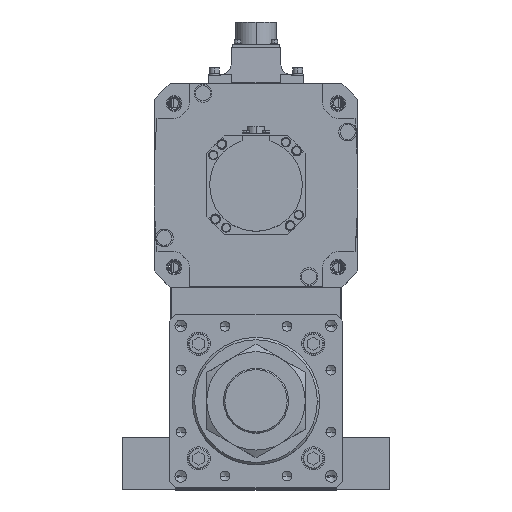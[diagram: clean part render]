
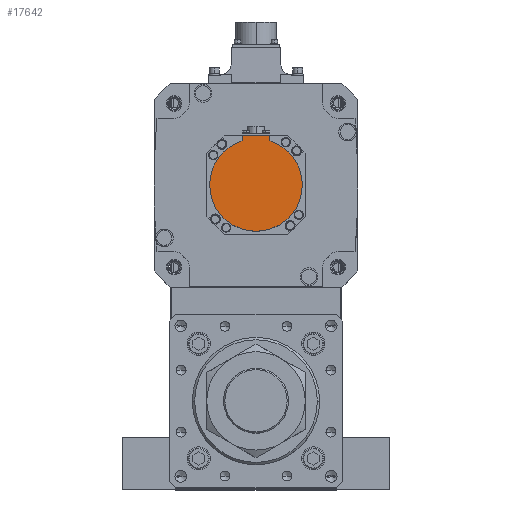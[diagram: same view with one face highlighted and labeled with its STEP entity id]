
A CAD part, top view. The second image highlights one B-rep face of the part: STEP entity #17642.
In plain terms, the highlighted planar face has unit normal (0, 0, 1) as drawn and (0, 0, -1) by its records, which use the part's own axes.
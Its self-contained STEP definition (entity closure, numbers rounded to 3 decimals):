
#2081 = PLANE ( 'NONE',  #34384 ) ;
#2195 = AXIS2_PLACEMENT_3D ( 'NONE', #39482, #43474, #18027 ) ;
#3431 = DIRECTION ( 'NONE',  ( -1., 0., 0. ) ) ;
#3719 = DIRECTION ( 'NONE',  ( 0., 1., 0. ) ) ;
#4108 = EDGE_CURVE ( 'NONE', #43213, #11987, #16862, .T. ) ;
#5821 = LINE ( 'NONE', #35766, #24658 ) ;
#5941 = DIRECTION ( 'NONE',  ( 1., 0., 0. ) ) ;
#7803 = CARTESIAN_POINT ( 'NONE',  ( 0., -42.5, -162.5 ) ) ;
#8145 = CARTESIAN_POINT ( 'NONE',  ( 12., -42.5, -162.5 ) ) ;
#8266 = ORIENTED_EDGE ( 'NONE', *, *, #47351, .F. ) ;
#8803 = EDGE_CURVE ( 'NONE', #37363, #50127, #37775, .T. ) ;
#8812 = AXIS2_PLACEMENT_3D ( 'NONE', #30160, #39229, #5941 ) ;
#11987 = VERTEX_POINT ( 'NONE', #44883 ) ;
#12668 = DIRECTION ( 'NONE',  ( 0., 1., 0. ) ) ;
#12845 = CARTESIAN_POINT ( 'NONE',  ( -12., -40.329, -162.5 ) ) ;
#13957 = ORIENTED_EDGE ( 'NONE', *, *, #15210, .T. ) ;
#15210 = EDGE_CURVE ( 'NONE', #50127, #11987, #22671, .T. ) ;
#15573 = ORIENTED_EDGE ( 'NONE', *, *, #4108, .F. ) ;
#16819 = DIRECTION ( 'NONE',  ( 1., 0., 0. ) ) ;
#16862 = CIRCLE ( 'NONE', #2195, 40. ) ;
#17642 = ADVANCED_FACE ( 'NONE', ( #52510 ), #2081, .F. ) ;
#18027 = DIRECTION ( 'NONE',  ( 1., 0., 0. ) ) ;
#18457 = DIRECTION ( 'NONE',  ( 0., 0., 1. ) ) ;
#20533 = ORIENTED_EDGE ( 'NONE', *, *, #48319, .F. ) ;
#22671 = LINE ( 'NONE', #12845, #31124 ) ;
#23134 = CARTESIAN_POINT ( 'NONE',  ( -12., -42.5, -162.5 ) ) ;
#23480 = CARTESIAN_POINT ( 'NONE',  ( -40., 0., -162.5 ) ) ;
#23680 = EDGE_CURVE ( 'NONE', #34850, #52972, #35340, .T. ) ;
#24203 = AXIS2_PLACEMENT_3D ( 'NONE', #33720, #33391, #16819 ) ;
#24658 = VECTOR ( 'NONE', #3719, 1000. ) ;
#26735 = CARTESIAN_POINT ( 'NONE',  ( 40., 0., -162.5 ) ) ;
#30160 = CARTESIAN_POINT ( 'NONE',  ( 0., 0., -162.5 ) ) ;
#30646 = DIRECTION ( 'NONE',  ( 1., 0., 0. ) ) ;
#31124 = VECTOR ( 'NONE', #12668, 1000. ) ;
#33391 = DIRECTION ( 'NONE',  ( 0., 0., 1. ) ) ;
#33720 = CARTESIAN_POINT ( 'NONE',  ( 0., 0., -162.5 ) ) ;
#34384 = AXIS2_PLACEMENT_3D ( 'NONE', #39546, #18457, #30646 ) ;
#34850 = VERTEX_POINT ( 'NONE', #46540 ) ;
#35340 = CIRCLE ( 'NONE', #8812, 40. ) ;
#35766 = CARTESIAN_POINT ( 'NONE',  ( 12., -1.249, -162.5 ) ) ;
#37363 = VERTEX_POINT ( 'NONE', #8145 ) ;
#37775 = LINE ( 'NONE', #7803, #46925 ) ;
#39229 = DIRECTION ( 'NONE',  ( 0., 0., 1. ) ) ;
#39482 = CARTESIAN_POINT ( 'NONE',  ( 0., 0., -162.5 ) ) ;
#39546 = CARTESIAN_POINT ( 'NONE',  ( 0., -1.249, -162.5 ) ) ;
#39776 = ORIENTED_EDGE ( 'NONE', *, *, #23680, .F. ) ;
#42178 = ORIENTED_EDGE ( 'NONE', *, *, #8803, .T. ) ;
#42803 = EDGE_LOOP ( 'NONE', ( #13957, #15573, #20533, #39776, #8266, #42178 ) ) ;
#43213 = VERTEX_POINT ( 'NONE', #23480 ) ;
#43474 = DIRECTION ( 'NONE',  ( 0., 0., 1. ) ) ;
#44883 = CARTESIAN_POINT ( 'NONE',  ( -12., -38.158, -162.5 ) ) ;
#46540 = CARTESIAN_POINT ( 'NONE',  ( 12., -38.158, -162.5 ) ) ;
#46925 = VECTOR ( 'NONE', #3431, 1000. ) ;
#47351 = EDGE_CURVE ( 'NONE', #37363, #34850, #5821, .T. ) ;
#47373 = CIRCLE ( 'NONE', #24203, 40. ) ;
#48319 = EDGE_CURVE ( 'NONE', #52972, #43213, #47373, .T. ) ;
#50127 = VERTEX_POINT ( 'NONE', #23134 ) ;
#52510 = FACE_OUTER_BOUND ( 'NONE', #42803, .T. ) ;
#52972 = VERTEX_POINT ( 'NONE', #26735 ) ;
